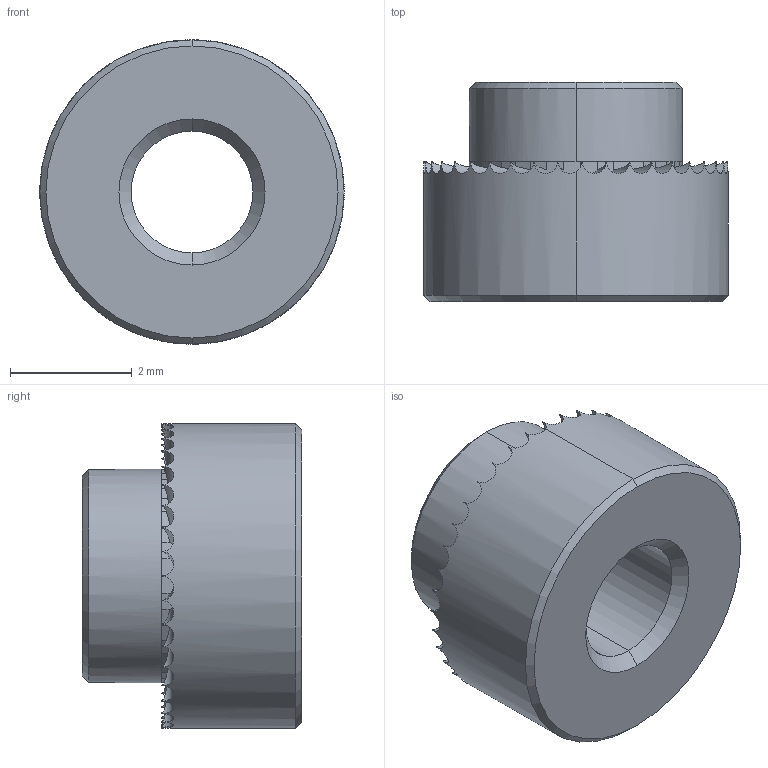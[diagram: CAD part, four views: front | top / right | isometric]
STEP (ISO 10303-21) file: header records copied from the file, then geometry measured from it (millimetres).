
FILE_DESCRIPTION (( 'STEP AP203' ), '1' );
FILE_NAME ('Default.step', '2019-03-21T22:08:25', ( '' ), ( '' ), 'SwSTEP 2.0', 'SolidWorks 2017', '' );
FILE_SCHEMA (( 'CONFIG_CONTROL_DESIGN' ));
Length unit declared in the file: millimetre
Products named in the file (1): Default
Bounding box: 5 x 3.6 x 5 mm (x, y, z)
Volume: 44.3 mm3; surface area: 105 mm2
Topology: 1 solids, 1 shells, 172 faces, 424 edges, 254 vertices
Faces by surface type: plane 119, cylinder 45, cone 8
Entity records: 5343 total; most frequent: CARTESIAN_POINT 1317, ORIENTED_EDGE 848, DIRECTION 825, EDGE_CURVE 424, AXIS2_PLACEMENT_3D 308, VERTEX_POINT 254, LINE 209, VECTOR 209
